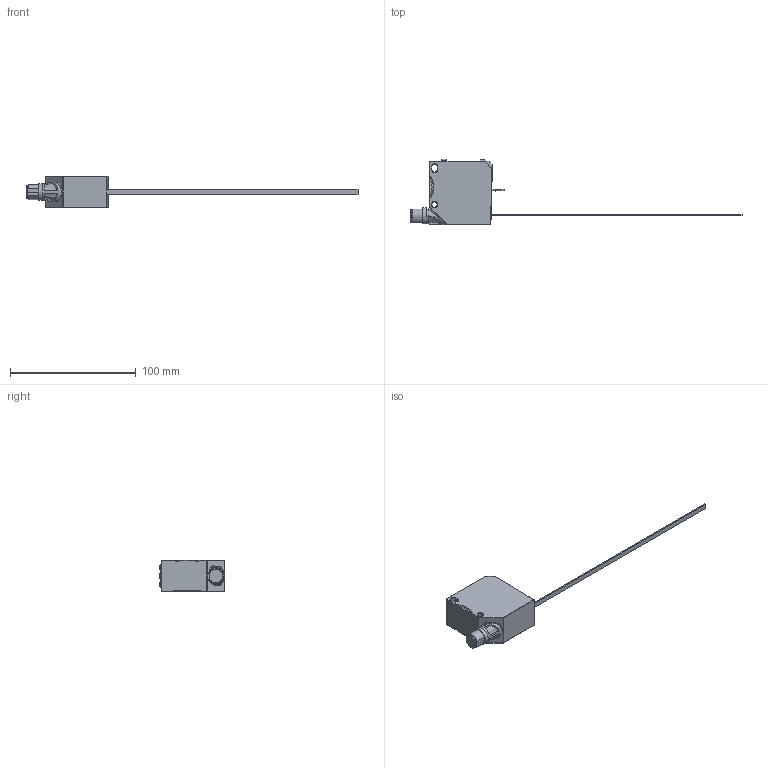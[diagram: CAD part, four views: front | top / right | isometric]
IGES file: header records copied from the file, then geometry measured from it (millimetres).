
Global section: file name: 624-41001_FT 55-RLAM-160-PNSUID-S1L8M; native system: Autodesk Inventor 2023; preprocessor: unknown; author: Sandra.Stahl; date: 20231215.092911; units: millimetre
Bounding box: 264.52 x 52.11 x 25 mm (x, y, z)
Volume: 62360.1 mm3; surface area: 13965 mm2
Topology: 4 solids, 4 shells, 252 faces, 632 edges, 403 vertices
Faces by surface type: bspline 252
